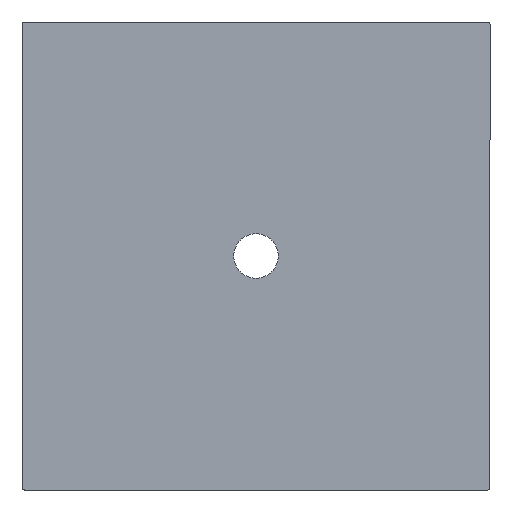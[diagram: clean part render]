
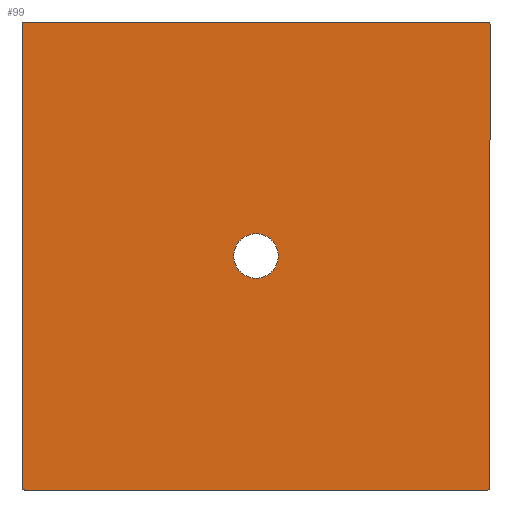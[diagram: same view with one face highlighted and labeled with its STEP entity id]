
A CAD part, front view. The second image highlights one B-rep face of the part: STEP entity #99.
In plain terms, the highlighted planar face has unit normal (0, -1, 0).
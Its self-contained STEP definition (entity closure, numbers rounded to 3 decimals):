
#16 = CARTESIAN_POINT ( 'NONE',  ( 0., 0., 0. ) ) ;
#99 = ADVANCED_FACE ( 'NONE', ( #1952, #1362 ), #2163, .F. ) ;
#119 = CARTESIAN_POINT ( 'NONE',  ( -500., 0., -495.001 ) ) ;
#164 = EDGE_CURVE ( 'NONE', #2037, #1437, #427, .T. ) ;
#194 = CARTESIAN_POINT ( 'NONE',  ( -497.929, 0., 500. ) ) ;
#219 = VERTEX_POINT ( 'NONE', #2384 ) ;
#250 = CARTESIAN_POINT ( 'NONE',  ( 500., 0., 497.929 ) ) ;
#267 = CARTESIAN_POINT ( 'NONE',  ( -495.001, 0., -500. ) ) ;
#400 = DIRECTION ( 'NONE',  ( 0., 1., 0. ) ) ;
#410 = ORIENTED_EDGE ( 'NONE', *, *, #1746, .F. ) ;
#413 = CARTESIAN_POINT ( 'NONE',  ( -495.001, 0., 500. ) ) ;
#427 =( BOUNDED_CURVE ( )  B_SPLINE_CURVE ( 3, ( #413, #194, #2360, #986 ),
 .UNSPECIFIED., .F., .T. ) 
 B_SPLINE_CURVE_WITH_KNOTS ( ( 4, 4 ),
 ( 5.498, 7.068 ),
 .UNSPECIFIED. ) 
 CURVE ( )  GEOMETRIC_REPRESENTATION_ITEM ( )  RATIONAL_B_SPLINE_CURVE ( ( 1., 0.805, 0.805, 1. ) ) 
 REPRESENTATION_ITEM ( '' )  );
#430 = EDGE_CURVE ( 'NONE', #1616, #219, #2312, .T. ) ;
#443 = CARTESIAN_POINT ( 'NONE',  ( 495.001, 0., 500. ) ) ;
#456 = CARTESIAN_POINT ( 'NONE',  ( 500., 0., -495.001 ) ) ;
#491 = CARTESIAN_POINT ( 'NONE',  ( 500., 0., 495.001 ) ) ;
#544 = EDGE_CURVE ( 'NONE', #1858, #1858, #1040, .T. ) ;
#547 = CARTESIAN_POINT ( 'NONE',  ( -495.001, 0., -500. ) ) ;
#594 =( BOUNDED_CURVE ( )  B_SPLINE_CURVE ( 3, ( #2319, #755, #2148, #1545 ),
 .UNSPECIFIED., .F., .F. ) 
 B_SPLINE_CURVE_WITH_KNOTS ( ( 4, 4 ),
 ( 5.498, 7.068 ),
 .UNSPECIFIED. ) 
 CURVE ( )  GEOMETRIC_REPRESENTATION_ITEM ( )  RATIONAL_B_SPLINE_CURVE ( ( 1., 0.805, 0.805, 1. ) ) 
 REPRESENTATION_ITEM ( '' )  );
#613 = CARTESIAN_POINT ( 'NONE',  ( 500., 0., 495.001 ) ) ;
#651 = CARTESIAN_POINT ( 'NONE',  ( 497.929, 0., 500. ) ) ;
#655 = ORIENTED_EDGE ( 'NONE', *, *, #1239, .T. ) ;
#684 = VERTEX_POINT ( 'NONE', #456 ) ;
#719 = CARTESIAN_POINT ( 'NONE',  ( 500., 0., -500. ) ) ;
#742 = LINE ( 'NONE', #719, #1503 ) ;
#755 = CARTESIAN_POINT ( 'NONE',  ( 497.929, 0., -500. ) ) ;
#840 = ORIENTED_EDGE ( 'NONE', *, *, #1112, .F. ) ;
#856 = CARTESIAN_POINT ( 'NONE',  ( 0., 0., -47.5 ) ) ;
#967 = VERTEX_POINT ( 'NONE', #2071 ) ;
#986 = CARTESIAN_POINT ( 'NONE',  ( -500., 0., 495.001 ) ) ;
#1009 = ORIENTED_EDGE ( 'NONE', *, *, #430, .T. ) ;
#1040 = CIRCLE ( 'NONE', #2503, 47.5 ) ;
#1087 = DIRECTION ( 'NONE',  ( 1., 0., 0. ) ) ;
#1112 = EDGE_CURVE ( 'NONE', #967, #1827, #742, .T. ) ;
#1122 = VECTOR ( 'NONE', #1868, 1000. ) ;
#1130 = EDGE_CURVE ( 'NONE', #1616, #684, #2516, .T. ) ;
#1154 = CARTESIAN_POINT ( 'NONE',  ( 500., 0., 500. ) ) ;
#1162 = EDGE_CURVE ( 'NONE', #2466, #1827, #2287, .T. ) ;
#1171 = VECTOR ( 'NONE', #2501, 1000. ) ;
#1206 = ORIENTED_EDGE ( 'NONE', *, *, #1130, .F. ) ;
#1239 = EDGE_CURVE ( 'NONE', #967, #684, #594, .T. ) ;
#1297 = LINE ( 'NONE', #1841, #1122 ) ;
#1362 = FACE_OUTER_BOUND ( 'NONE', #2068, .T. ) ;
#1406 = DIRECTION ( 'NONE',  ( 0., 0., -1. ) ) ;
#1437 = VERTEX_POINT ( 'NONE', #2421 ) ;
#1464 = CARTESIAN_POINT ( 'NONE',  ( -500., 0., 500. ) ) ;
#1503 = VECTOR ( 'NONE', #1713, 1000. ) ;
#1532 = CARTESIAN_POINT ( 'NONE',  ( -500., 0., -495.001 ) ) ;
#1545 = CARTESIAN_POINT ( 'NONE',  ( 500., 0., -495.001 ) ) ;
#1612 = CARTESIAN_POINT ( 'NONE',  ( 0., 0., 0. ) ) ;
#1616 = VERTEX_POINT ( 'NONE', #491 ) ;
#1620 = EDGE_CURVE ( 'NONE', #2037, #219, #1854, .T. ) ;
#1713 = DIRECTION ( 'NONE',  ( -1., 0., 0. ) ) ;
#1746 = EDGE_CURVE ( 'NONE', #2466, #1437, #1297, .T. ) ;
#1827 = VERTEX_POINT ( 'NONE', #267 ) ;
#1841 = CARTESIAN_POINT ( 'NONE',  ( -500., 0., -500. ) ) ;
#1854 = LINE ( 'NONE', #1464, #2497 ) ;
#1858 = VERTEX_POINT ( 'NONE', #856 ) ;
#1868 = DIRECTION ( 'NONE',  ( 0., 0., 1. ) ) ;
#1876 = AXIS2_PLACEMENT_3D ( 'NONE', #16, #400, #2187 ) ;
#1910 = EDGE_LOOP ( 'NONE', ( #2387 ) ) ;
#1924 = ORIENTED_EDGE ( 'NONE', *, *, #1620, .F. ) ;
#1948 = ORIENTED_EDGE ( 'NONE', *, *, #164, .T. ) ;
#1950 = CARTESIAN_POINT ( 'NONE',  ( -497.929, 0., -500. ) ) ;
#1952 = FACE_BOUND ( 'NONE', #1910, .T. ) ;
#1998 = DIRECTION ( 'NONE',  ( 0., -1., 0. ) ) ;
#2037 = VERTEX_POINT ( 'NONE', #2106 ) ;
#2068 = EDGE_LOOP ( 'NONE', ( #840, #655, #1206, #1009, #1924, #1948, #410, #2270 ) ) ;
#2071 = CARTESIAN_POINT ( 'NONE',  ( 495.001, 0., -500. ) ) ;
#2106 = CARTESIAN_POINT ( 'NONE',  ( -495.001, 0., 500. ) ) ;
#2124 = CARTESIAN_POINT ( 'NONE',  ( -500., 0., -497.929 ) ) ;
#2148 = CARTESIAN_POINT ( 'NONE',  ( 500., 0., -497.929 ) ) ;
#2163 = PLANE ( 'NONE',  #1876 ) ;
#2187 = DIRECTION ( 'NONE',  ( 0., 0., 1. ) ) ;
#2270 = ORIENTED_EDGE ( 'NONE', *, *, #1162, .T. ) ;
#2287 =( BOUNDED_CURVE ( )  B_SPLINE_CURVE ( 3, ( #1532, #2124, #1950, #547 ),
 .UNSPECIFIED., .F., .T. ) 
 B_SPLINE_CURVE_WITH_KNOTS ( ( 4, 4 ),
 ( 5.498, 7.068 ),
 .UNSPECIFIED. ) 
 CURVE ( )  GEOMETRIC_REPRESENTATION_ITEM ( )  RATIONAL_B_SPLINE_CURVE ( ( 1., 0.805, 0.805, 1. ) ) 
 REPRESENTATION_ITEM ( '' )  );
#2312 =( BOUNDED_CURVE ( )  B_SPLINE_CURVE ( 3, ( #613, #250, #651, #443 ),
 .UNSPECIFIED., .F., .T. ) 
 B_SPLINE_CURVE_WITH_KNOTS ( ( 4, 4 ),
 ( 5.498, 7.068 ),
 .UNSPECIFIED. ) 
 CURVE ( )  GEOMETRIC_REPRESENTATION_ITEM ( )  RATIONAL_B_SPLINE_CURVE ( ( 1., 0.805, 0.805, 1. ) ) 
 REPRESENTATION_ITEM ( '' )  );
#2319 = CARTESIAN_POINT ( 'NONE',  ( 495.001, 0., -500. ) ) ;
#2360 = CARTESIAN_POINT ( 'NONE',  ( -500., 0., 497.929 ) ) ;
#2384 = CARTESIAN_POINT ( 'NONE',  ( 495.001, 0., 500. ) ) ;
#2387 = ORIENTED_EDGE ( 'NONE', *, *, #544, .F. ) ;
#2421 = CARTESIAN_POINT ( 'NONE',  ( -500., 0., 495.001 ) ) ;
#2466 = VERTEX_POINT ( 'NONE', #119 ) ;
#2497 = VECTOR ( 'NONE', #1087, 1000. ) ;
#2501 = DIRECTION ( 'NONE',  ( 0., 0., -1. ) ) ;
#2503 = AXIS2_PLACEMENT_3D ( 'NONE', #1612, #1998, #1406 ) ;
#2516 = LINE ( 'NONE', #1154, #1171 ) ;
